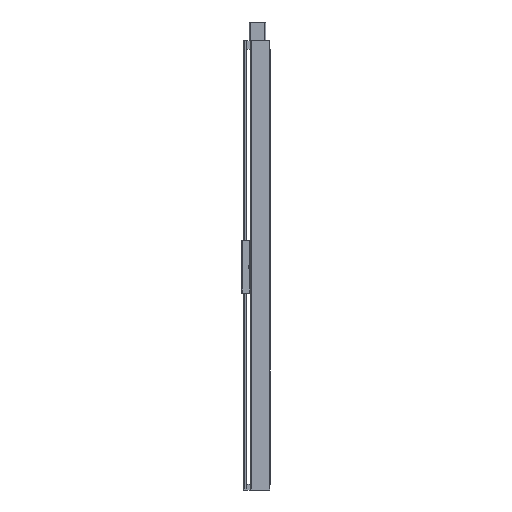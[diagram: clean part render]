
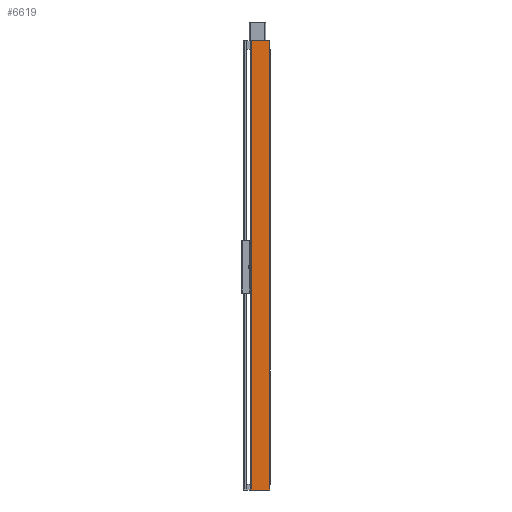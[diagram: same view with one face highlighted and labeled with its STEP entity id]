
A CAD part, left-side view. The second image highlights one B-rep face of the part: STEP entity #6619.
In plain terms, the highlighted planar face has unit normal (-1, 0, 0).
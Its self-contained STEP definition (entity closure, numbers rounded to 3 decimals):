
#1937=CARTESIAN_POINT('',(-68.,65.5,1545.0));
#1938=VERTEX_POINT('',#1937);
#1946=CARTESIAN_POINT('',(-68.0,0.5,1545.0));
#1947=VERTEX_POINT('',#1946);
#1948=CARTESIAN_POINT('',(-68.0,0.5,1545.0));
#1949=DIRECTION('',(0.0,1.0,0.0));
#1950=VECTOR('',#1949,65.0);
#1951=LINE('',#1948,#1950);
#1952=EDGE_CURVE('',#1947,#1938,#1951,.T.);
#5826=CARTESIAN_POINT('',(-68.0,0.5,-20.0));
#5827=VERTEX_POINT('',#5826);
#5836=CARTESIAN_POINT('',(-68.,65.5,-20.0));
#5837=VERTEX_POINT('',#5836);
#5838=CARTESIAN_POINT('',(-68.,65.5,-20.0));
#5839=DIRECTION('',(0.0,-1.0,0.0));
#5840=VECTOR('',#5839,65.0);
#5841=LINE('',#5838,#5840);
#5842=EDGE_CURVE('',#5837,#5827,#5841,.T.);
#6568=CARTESIAN_POINT('',(-68.0,0.5,-20.0));
#6569=DIRECTION('',(0.0,0.0,1.0));
#6570=VECTOR('',#6569,1565.0);
#6571=LINE('',#6568,#6570);
#6572=EDGE_CURVE('',#5827,#1947,#6571,.T.);
#6603=CARTESIAN_POINT('',(-68.0,0.5,0.0));
#6604=DIRECTION('',(-1.0,0.0,0.0));
#6605=DIRECTION('',(0.0,0.0,1.0));
#6606=AXIS2_PLACEMENT_3D('',#6603,#6604,#6605);
#6607=PLANE('',#6606);
#6608=CARTESIAN_POINT('',(-68.,65.5,-20.0));
#6609=DIRECTION('',(0.0,0.0,1.0));
#6610=VECTOR('',#6609,1565.0);
#6611=LINE('',#6608,#6610);
#6612=EDGE_CURVE('',#5837,#1938,#6611,.T.);
#6613=ORIENTED_EDGE('',*,*,#6612,.F.);
#6614=ORIENTED_EDGE('',*,*,#5842,.T.);
#6615=ORIENTED_EDGE('',*,*,#6572,.T.);
#6616=ORIENTED_EDGE('',*,*,#1952,.T.);
#6617=EDGE_LOOP('',(#6613,#6614,#6615,#6616));
#6618=FACE_OUTER_BOUND('',#6617,.T.);
#6619=ADVANCED_FACE('',(#6618),#6607,.T.);
